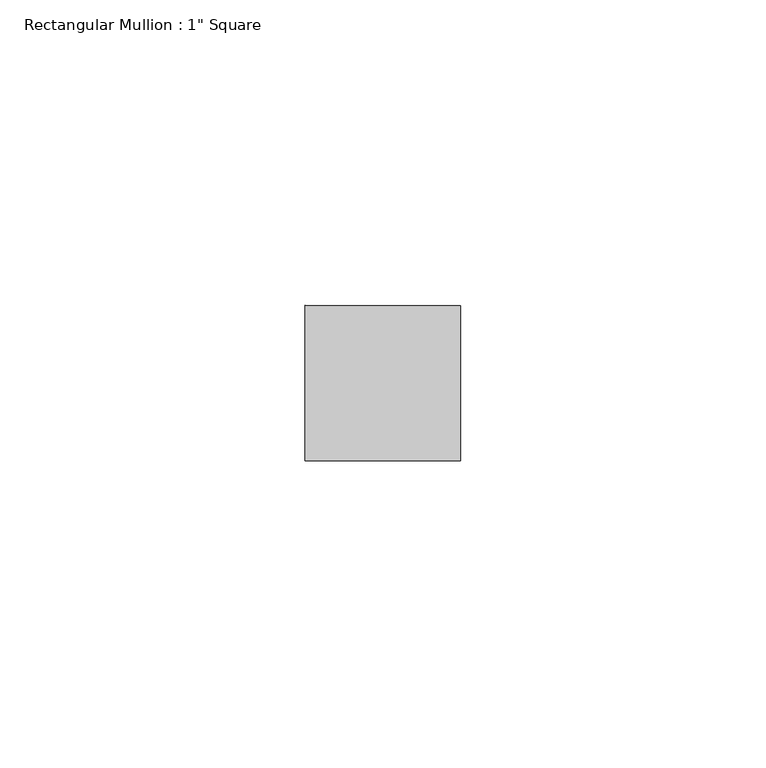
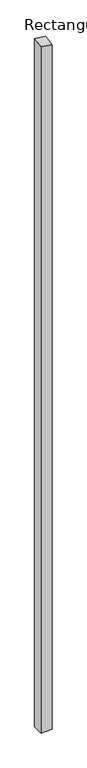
"""IFC4 building model written with IfcOpenShell, lengths in millimetres: member geometry."""

from ifc_helpers import new_model, si_unit, origin, place, context, project, spatial, faceted_brep, source, transform, mapped, element, save


def member_252065d0(model_context):
    return source(origin(), model_context, "Body", "Brep", [
        faceted_brep([(12.7, 12.7, -1689.6185591), (12.7, -12.7, -1689.6185591), (-12.7, -12.7, -1689.6185591), (-12.7, 12.7, -1689.6185591), (-12.7, 12.7, 4.3335773), (12.7, 12.7, 0.4420433), (-12.7, -12.7, -0.4420433), (12.7, -12.7, -4.3335773)], [[[0, 1, 2, 3]], [[4, 5, 0, 3]], [[6, 4, 3, 2]], [[7, 6, 2, 1]], [[5, 7, 1, 0]], [[5, 4, 6, 7]]]),
    ])


if __name__ == "__main__":
    model = new_model("IFC4")
    model_context = context("Model", 3, world=origin())
    ifc_project = project(units=[si_unit("LENGTHUNIT", "METRE", prefix="MILLI")], contexts=[model_context])
    site = spatial("IfcSite", under=ifc_project)
    building = spatial("IfcBuilding", under=site)
    placement = place(None, origin())
    member_shape = member_252065d0(model_context)
    element("IfcMember", 1, ObjectType="Rectangular Mullion : 1\" Square", at=placement, inside=building, context=model_context, shape_type="MappedRepresentation", body=[
        mapped(member_shape, transform((0.0, 0.0, 0.0), x_axis=(1.0, 0.0, 0.0), y_axis=(0.0, 1.0, 0.0), z_axis=(0.0, 0.0, 1.0))),
    ])
    save(model, "model.ifc")
